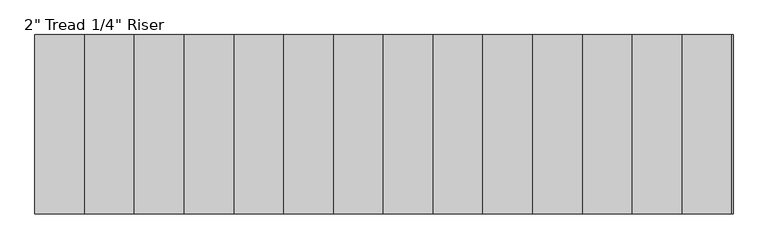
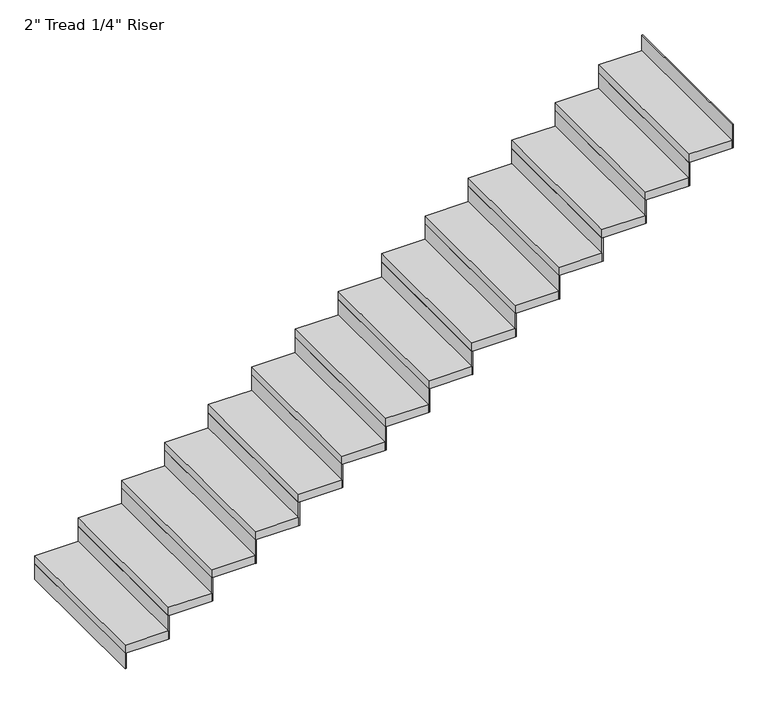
"""IFC4 building model written with IfcOpenShell, lengths in millimetres: stair flight geometry."""

from ifc_helpers import new_model, si_unit, frame, origin, origin_with_axes, place, context, project, spatial, polyline, outline, extrude, source, transform, mapped, element, save


def stair_flight_f2fce335(model_context):
    return source(origin(), model_context, "Body", "SweptSolid", [
        extrude(outline(polyline([(157748.3811068, -18868.6990002), (157742.0311068, -18868.6990002), (157742.0311068, -17954.2990002), (157748.3811068, -17954.2990002), (157748.3811068, -18868.6990002)])), origin_with_axes(), (0.0, 0.0, 1.0), 94.3428571),
        extrude(outline(polyline([(157996.0311068, -17954.2990002), (157996.0311068, -18868.6990002), (157742.0311068, -18868.6990002), (157742.0311068, -17954.2990002), (157996.0311068, -17954.2990002)])), frame((0.0, 0.0, 94.3428571), z_axis=(0.0, 0.0, 1.0), x_axis=(1.0, 0.0, 0.0)), (0.0, 0.0, 1.0), 50.8),
        extrude(outline(polyline([(158002.3811068, -18868.6990002), (157996.0311068, -18868.6990002), (157996.0311068, -17954.2990002), (158002.3811068, -17954.2990002), (158002.3811068, -18868.6990002)])), frame((0.0, 0.0, 94.3428571), z_axis=(0.0, 0.0, 1.0), x_axis=(1.0, 0.0, 0.0)), (0.0, 0.0, 1.0), 145.1428571),
        extrude(outline(polyline([(158250.0311068, -17954.2990002), (158250.0311068, -18868.6990002), (157996.0311068, -18868.6990002), (157996.0311068, -17954.2990002), (158250.0311068, -17954.2990002)])), frame((0.0, 0.0, 239.4857143), z_axis=(0.0, 0.0, 1.0), x_axis=(1.0, 0.0, 0.0)), (0.0, 0.0, 1.0), 50.8),
        extrude(outline(polyline([(158256.3811068, -18868.6990002), (158250.0311068, -18868.6990002), (158250.0311068, -17954.2990002), (158256.3811068, -17954.2990002), (158256.3811068, -18868.6990002)])), frame((0.0, 0.0, 239.4857143), z_axis=(0.0, 0.0, 1.0), x_axis=(1.0, 0.0, 0.0)), (0.0, 0.0, 1.0), 145.1428571),
        extrude(outline(polyline([(158504.0311068, -17954.2990002), (158504.0311068, -18868.6990002), (158250.0311068, -18868.6990002), (158250.0311068, -17954.2990002), (158504.0311068, -17954.2990002)])), frame((0.0, 0.0, 384.6285714), z_axis=(0.0, 0.0, 1.0), x_axis=(1.0, 0.0, 0.0)), (0.0, 0.0, 1.0), 50.8),
        extrude(outline(polyline([(158510.3811068, -18868.6990002), (158504.0311068, -18868.6990002), (158504.0311068, -17954.2990002), (158510.3811068, -17954.2990002), (158510.3811068, -18868.6990002)])), frame((0.0, 0.0, 384.6285714), z_axis=(0.0, 0.0, 1.0), x_axis=(1.0, 0.0, 0.0)), (0.0, 0.0, 1.0), 145.1428571),
        extrude(outline(polyline([(158758.0311068, -17954.2990002), (158758.0311068, -18868.6990002), (158504.0311068, -18868.6990002), (158504.0311068, -17954.2990002), (158758.0311068, -17954.2990002)])), frame((0.0, 0.0, 529.7714286), z_axis=(0.0, 0.0, 1.0), x_axis=(1.0, 0.0, 0.0)), (0.0, 0.0, 1.0), 50.8),
        extrude(outline(polyline([(158764.3811068, -18868.6990002), (158758.0311068, -18868.6990002), (158758.0311068, -17954.2990002), (158764.3811068, -17954.2990002), (158764.3811068, -18868.6990002)])), frame((0.0, 0.0, 529.7714286), z_axis=(0.0, 0.0, 1.0), x_axis=(1.0, 0.0, 0.0)), (0.0, 0.0, 1.0), 145.1428571),
        extrude(outline(polyline([(159012.0311068, -17954.2990002), (159012.0311068, -18868.6990002), (158758.0311068, -18868.6990002), (158758.0311068, -17954.2990002), (159012.0311068, -17954.2990002)])), frame((0.0, 0.0, 674.9142857), z_axis=(0.0, 0.0, 1.0), x_axis=(1.0, 0.0, 0.0)), (0.0, 0.0, 1.0), 50.8),
        extrude(outline(polyline([(159018.3811068, -18868.6990002), (159012.0311068, -18868.6990002), (159012.0311068, -17954.2990002), (159018.3811068, -17954.2990002), (159018.3811068, -18868.6990002)])), frame((0.0, 0.0, 674.9142857), z_axis=(0.0, 0.0, 1.0), x_axis=(1.0, 0.0, 0.0)), (0.0, 0.0, 1.0), 145.1428571),
        extrude(outline(polyline([(159266.0311068, -17954.2990002), (159266.0311068, -18868.6990002), (159012.0311068, -18868.6990002), (159012.0311068, -17954.2990002), (159266.0311068, -17954.2990002)])), frame((0.0, 0.0, 820.0571429), z_axis=(0.0, 0.0, 1.0), x_axis=(1.0, 0.0, 0.0)), (0.0, 0.0, 1.0), 50.8),
        extrude(outline(polyline([(159272.3811068, -18868.6990002), (159266.0311068, -18868.6990002), (159266.0311068, -17954.2990002), (159272.3811068, -17954.2990002), (159272.3811068, -18868.6990002)])), frame((0.0, 0.0, 820.0571429), z_axis=(0.0, 0.0, 1.0), x_axis=(1.0, 0.0, 0.0)), (0.0, 0.0, 1.0), 145.1428571),
        extrude(outline(polyline([(159520.0311068, -17954.2990002), (159520.0311068, -18868.6990002), (159266.0311068, -18868.6990002), (159266.0311068, -17954.2990002), (159520.0311068, -17954.2990002)])), frame((0.0, 0.0, 965.2), z_axis=(0.0, 0.0, 1.0), x_axis=(1.0, 0.0, 0.0)), (0.0, 0.0, 1.0), 50.8),
        extrude(outline(polyline([(159526.3811068, -18868.6990002), (159520.0311068, -18868.6990002), (159520.0311068, -17954.2990002), (159526.3811068, -17954.2990002), (159526.3811068, -18868.6990002)])), frame((0.0, 0.0, 965.2), z_axis=(0.0, 0.0, 1.0), x_axis=(1.0, 0.0, 0.0)), (0.0, 0.0, 1.0), 145.1428571),
        extrude(outline(polyline([(159774.0311068, -17954.2990002), (159774.0311068, -18868.6990002), (159520.0311068, -18868.6990002), (159520.0311068, -17954.2990002), (159774.0311068, -17954.2990002)])), frame((0.0, 0.0, 1110.3428571), z_axis=(0.0, 0.0, 1.0), x_axis=(1.0, 0.0, 0.0)), (0.0, 0.0, 1.0), 50.8),
        extrude(outline(polyline([(159780.3811068, -18868.6990002), (159774.0311068, -18868.6990002), (159774.0311068, -17954.2990002), (159780.3811068, -17954.2990002), (159780.3811068, -18868.6990002)])), frame((0.0, 0.0, 1110.3428571), z_axis=(0.0, 0.0, 1.0), x_axis=(1.0, 0.0, 0.0)), (0.0, 0.0, 1.0), 145.1428571),
        extrude(outline(polyline([(160028.0311068, -17954.2990002), (160028.0311068, -18868.6990002), (159774.0311068, -18868.6990002), (159774.0311068, -17954.2990002), (160028.0311068, -17954.2990002)])), frame((0.0, 0.0, 1255.4857143), z_axis=(0.0, 0.0, 1.0), x_axis=(1.0, 0.0, 0.0)), (0.0, 0.0, 1.0), 50.8),
        extrude(outline(polyline([(160034.3811068, -18868.6990002), (160028.0311068, -18868.6990002), (160028.0311068, -17954.2990002), (160034.3811068, -17954.2990002), (160034.3811068, -18868.6990002)])), frame((0.0, 0.0, 1255.4857143), z_axis=(0.0, 0.0, 1.0), x_axis=(1.0, 0.0, 0.0)), (0.0, 0.0, 1.0), 145.1428571),
        extrude(outline(polyline([(160282.0311068, -17954.2990002), (160282.0311068, -18868.6990002), (160028.0311068, -18868.6990002), (160028.0311068, -17954.2990002), (160282.0311068, -17954.2990002)])), frame((0.0, 0.0, 1400.6285714), z_axis=(0.0, 0.0, 1.0), x_axis=(1.0, 0.0, 0.0)), (0.0, 0.0, 1.0), 50.8),
        extrude(outline(polyline([(160288.3811068, -18868.6990002), (160282.0311068, -18868.6990002), (160282.0311068, -17954.2990002), (160288.3811068, -17954.2990002), (160288.3811068, -18868.6990002)])), frame((0.0, 0.0, 1400.6285714), z_axis=(0.0, 0.0, 1.0), x_axis=(1.0, 0.0, 0.0)), (0.0, 0.0, 1.0), 145.1428571),
        extrude(outline(polyline([(160536.0311068, -17954.2990002), (160536.0311068, -18868.6990002), (160282.0311068, -18868.6990002), (160282.0311068, -17954.2990002), (160536.0311068, -17954.2990002)])), frame((0.0, 0.0, 1545.7714286), z_axis=(0.0, 0.0, 1.0), x_axis=(1.0, 0.0, 0.0)), (0.0, 0.0, 1.0), 50.8),
        extrude(outline(polyline([(160542.3811068, -18868.6990002), (160536.0311068, -18868.6990002), (160536.0311068, -17954.2990002), (160542.3811068, -17954.2990002), (160542.3811068, -18868.6990002)])), frame((0.0, 0.0, 1545.7714286), z_axis=(0.0, 0.0, 1.0), x_axis=(1.0, 0.0, 0.0)), (0.0, 0.0, 1.0), 145.1428571),
        extrude(outline(polyline([(160790.0311068, -17954.2990002), (160790.0311068, -18868.6990002), (160536.0311068, -18868.6990002), (160536.0311068, -17954.2990002), (160790.0311068, -17954.2990002)])), frame((0.0, 0.0, 1690.9142857), z_axis=(0.0, 0.0, 1.0), x_axis=(1.0, 0.0, 0.0)), (0.0, 0.0, 1.0), 50.8),
        extrude(outline(polyline([(160796.3811068, -18868.6990002), (160790.0311068, -18868.6990002), (160790.0311068, -17954.2990002), (160796.3811068, -17954.2990002), (160796.3811068, -18868.6990002)])), frame((0.0, 0.0, 1690.9142857), z_axis=(0.0, 0.0, 1.0), x_axis=(1.0, 0.0, 0.0)), (0.0, 0.0, 1.0), 145.1428571),
        extrude(outline(polyline([(161044.0311068, -17954.2990002), (161044.0311068, -18868.6990002), (160790.0311068, -18868.6990002), (160790.0311068, -17954.2990002), (161044.0311068, -17954.2990002)])), frame((0.0, 0.0, 1836.0571429), z_axis=(0.0, 0.0, 1.0), x_axis=(1.0, 0.0, 0.0)), (0.0, 0.0, 1.0), 50.8),
        extrude(outline(polyline([(161050.3811068, -18868.6990002), (161044.0311068, -18868.6990002), (161044.0311068, -17954.2990002), (161050.3811068, -17954.2990002), (161050.3811068, -18868.6990002)])), frame((0.0, 0.0, 1836.0571429), z_axis=(0.0, 0.0, 1.0), x_axis=(1.0, 0.0, 0.0)), (0.0, 0.0, 1.0), 145.1428571),
        extrude(outline(polyline([(161304.3811068, -18868.6990002), (161298.0311068, -18868.6990002), (161298.0311068, -17954.2990002), (161304.3811068, -17954.2990002), (161304.3811068, -18868.6990002)])), frame((0.0, 0.0, 1981.2), z_axis=(0.0, 0.0, 1.0), x_axis=(1.0, 0.0, 0.0)), (0.0, 0.0, 1.0), 145.1428571),
        extrude(outline(polyline([(161298.0311068, -17954.2990002), (161298.0311068, -18868.6990002), (161044.0311068, -18868.6990002), (161044.0311068, -17954.2990002), (161298.0311068, -17954.2990002)])), frame((0.0, 0.0, 1981.2), z_axis=(0.0, 0.0, 1.0), x_axis=(1.0, 0.0, 0.0)), (0.0, 0.0, 1.0), 50.8),
    ])


if __name__ == "__main__":
    model = new_model("IFC4")
    model_context = context("Model", 3, world=origin())
    ifc_project = project(units=[si_unit("LENGTHUNIT", "METRE", prefix="MILLI")], contexts=[model_context])
    site = spatial("IfcSite", under=ifc_project)
    building = spatial("IfcBuilding", under=site)
    placement = place(None, origin())
    stair_flight_shape = stair_flight_f2fce335(model_context)
    element("IfcStairFlight", 1, ObjectType="2\" Tread 1/4\" Riser", at=placement, inside=building, context=model_context, shape_type="MappedRepresentation", body=[
        mapped(stair_flight_shape, transform((0.0, 0.0, 0.0), x_axis=(1.0, 0.0, 0.0), y_axis=(0.0, 1.0, 0.0), z_axis=(0.0, 0.0, 1.0))),
    ])
    save(model, "model.ifc")
